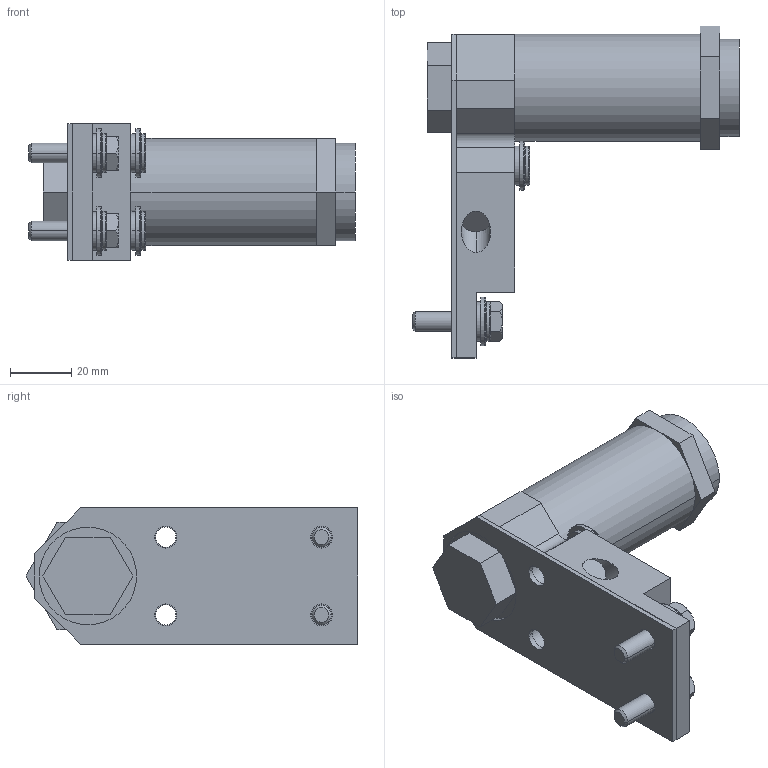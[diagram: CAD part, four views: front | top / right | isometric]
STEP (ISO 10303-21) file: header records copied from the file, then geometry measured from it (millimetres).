
FILE_DESCRIPTION((''),'2;1');
FILE_NAME('XM3_ASM','2017-08-24T',('jennifer.elliott'),('CenterLine (Windsor) Ltd - Automation Components Division'),'PRO/ENGINEER BY PARAMETRIC TECHNOLOGY CORPORATION, 2015030','PRO/ENGINEER BY PARAMETRIC TECHNOLOGY CORPORATION, 2015030','');
FILE_SCHEMA(('AUTOMOTIVE_DESIGN { 1 0 10303 214 1 1 1 1 }'));
Length unit declared in the file: inch
Products named in the file (27): TMP_DWG-3DSOLID_116; TMP_DWG-3DSOLID_117; TMP_DWG-3DSOLID_118; TMP_DWG-3DSOLID_119; TMP_DWG-3DSOLID_120; TMP_DWG-3DSOLID_121; TMP_DWG-3DSOLID_122; TMP_DWG-3DSOLID_123; TMP_DWG-3DSOLID_124; TMP_DWG-3DSOLID_125; TMP_DWG-3DSOLID_126; TMP_DWG-3DSOLID_127; TMP_DWG-3DSOLID_128; TMP_DWG-3DSOLID_129; TMP_DWG-3DSOLID_130; TMP_DWG-3DSOLID_131; TMP_DWG-3DSOLID_132; TMP_DWG-3DSOLID_133; TMP_DWG-3DSOLID_134; TMP_DWG-3DSOLID_135; TMP_DWG-3DSOLID_136; TMP_DWG-3DSOLID_137; TMP_DWG-3DSOLID_138; TMP_DWG-3DSOLID_139; TMP_DWG-3DSOLID_140; TMP_DWG-3DSOLID_160; XM3_ASM
Assembly tree (26 placements, depth 2):
  XM3_ASM
    TMP_DWG-3DSOLID_116
    TMP_DWG-3DSOLID_117
    TMP_DWG-3DSOLID_118
    TMP_DWG-3DSOLID_119
    TMP_DWG-3DSOLID_120
    TMP_DWG-3DSOLID_121
    TMP_DWG-3DSOLID_122
    TMP_DWG-3DSOLID_123
    TMP_DWG-3DSOLID_124
    TMP_DWG-3DSOLID_125
    TMP_DWG-3DSOLID_126
    TMP_DWG-3DSOLID_127
    TMP_DWG-3DSOLID_128
    TMP_DWG-3DSOLID_129
    TMP_DWG-3DSOLID_130
    TMP_DWG-3DSOLID_131
    TMP_DWG-3DSOLID_132
    TMP_DWG-3DSOLID_133
    TMP_DWG-3DSOLID_134
    TMP_DWG-3DSOLID_135
    TMP_DWG-3DSOLID_136
    TMP_DWG-3DSOLID_137
    TMP_DWG-3DSOLID_138
    TMP_DWG-3DSOLID_139
    TMP_DWG-3DSOLID_140
    TMP_DWG-3DSOLID_160
Bounding box: 106.49 x 108.24 x 44.45 mm (x, y, z)
Volume: 149367 mm3; surface area: 47223.9 mm2
Topology: 21 solids, 21 shells, 245 faces, 573 edges, 377 vertices
Faces by surface type: plane 101, cylinder 92, cone 28, torus 24
Entity records: 8939 total; most frequent: CARTESIAN_POINT 1682, DIRECTION 1375, ORIENTED_EDGE 1146, EDGE_CURVE 573, AXIS2_PLACEMENT_3D 570, VERTEX_POINT 377, EDGE_LOOP 290, CIRCLE 272
